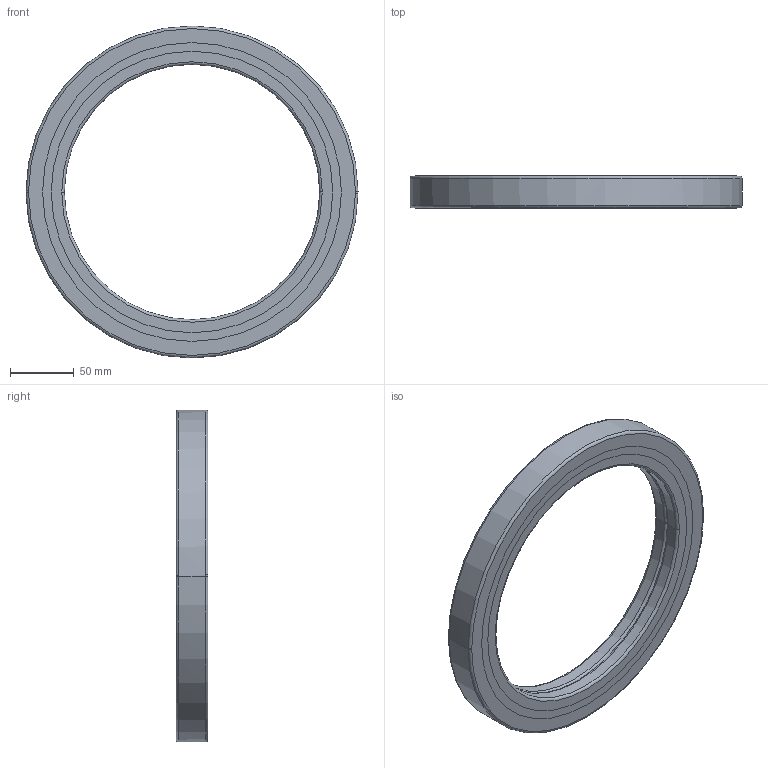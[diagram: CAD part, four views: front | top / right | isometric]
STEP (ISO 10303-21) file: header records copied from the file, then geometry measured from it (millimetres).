
FILE_DESCRIPTION(('no description'),'unknown implementation level');
FILE_NAME('CRBB20025_75.stp',' ',('HIWIN GmbH'),('CADClick - KiM GmbH - www.kimweb.de'),'unknown preprocess','ACIS','unknown authorization');
FILE_SCHEMA(('automotive_design'));
Length unit declared in the file: millimetre
Products named in the file (5): CRBB20025_1; CRBB20025_2; CRBB20025_3; CRBB20025_4; CRBB20025
Bounding box: 260 x 25 x 260 mm (x, y, z)
Volume: 434492.4 mm3; surface area: 139932.4 mm2
Topology: 5 solids, 5 shells, 54 faces, 120 edges, 76 vertices
Faces by surface type: torus 24, cylinder 20, plane 10
Entity records: 3096 total; most frequent: DIRECTION 338, STYLED_ITEM 255, PRESENTATION_STYLE_ASSIGNMENT 255, CARTESIAN_POINT 255, COLOUR_RGB 255, ORIENTED_EDGE 240, AXIS2_PLACEMENT_3D 159, EDGE_CURVE 120
